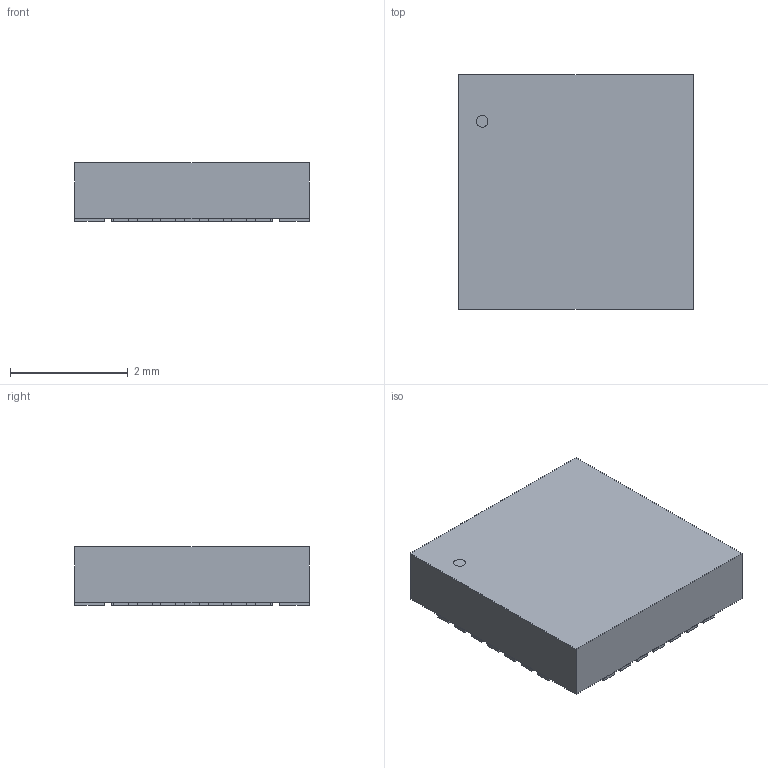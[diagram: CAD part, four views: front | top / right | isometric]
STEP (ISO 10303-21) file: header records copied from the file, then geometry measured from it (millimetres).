
FILE_DESCRIPTION(('STEP AP214'),'1');
FILE_NAME('VQFN28_STX_MCH','2026-04-06T10:12:23',(''),(''),'','','');
FILE_SCHEMA(('AUTOMOTIVE_DESIGN'));
Length unit declared in the file: millimetre
Products named in the file (1): product
Bounding box: 3.99 x 3.99 x 0.99 mm (x, y, z)
Volume: 15.5 mm3; surface area: 71.9 mm2
Topology: 31 solids, 31 shells, 183 faces, 363 edges, 242 vertices
Faces by surface type: plane 182, cylinder 1
Full cylindrical faces by diameter (mm): 0.199 x1
Entity records: 4549 total; most frequent: DIRECTION 734, ORIENTED_EDGE 724, CARTESIAN_POINT 429, EDGE_CURVE 362, LINE 360, VECTOR 360, VERTEX_POINT 242, AXIS2_PLACEMENT_3D 187
